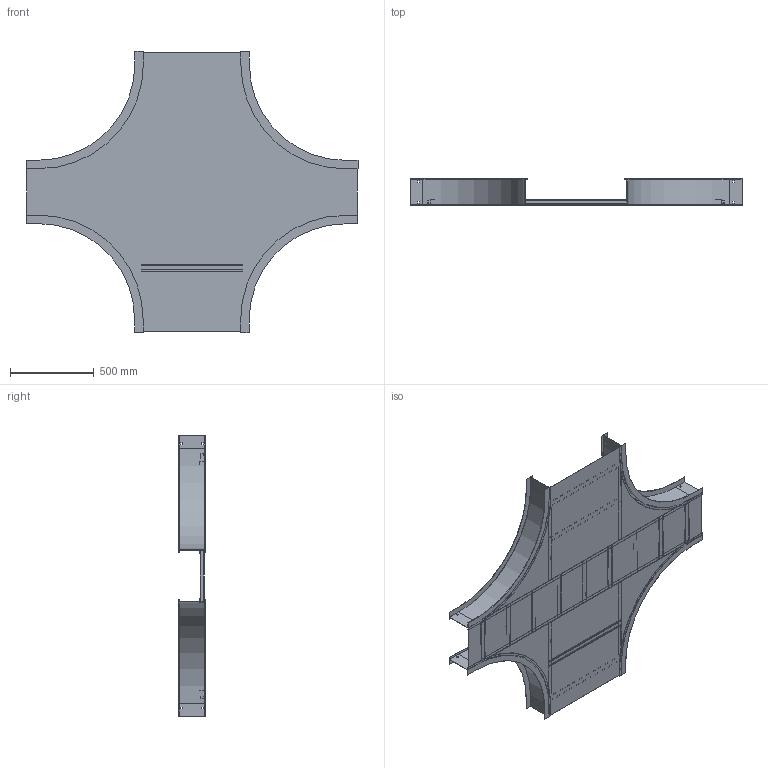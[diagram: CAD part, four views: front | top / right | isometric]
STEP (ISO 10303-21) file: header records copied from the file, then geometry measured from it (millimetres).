
FILE_DESCRIPTION((''),'2;1');
FILE_NAME('AHF61224SEX24_ASM','2010-02-01T',('erouzier'),(''),'PRO/ENGINEER BY PARAMETRIC TECHNOLOGY CORPORATION, 2008510','PRO/ENGINEER BY PARAMETRIC TECHNOLOGY CORPORATION, 2008510','');
FILE_SCHEMA(('CONFIG_CONTROL_DESIGN'));
Length unit declared in the file: inch
Products named in the file (19): CDS001812-6-90-24-I; CDS002159L12_AF17; CDS002159L12_AF18; CDS002159L12_AF19; CDS002159L12_AF20; CDS002159L12_AF21; CDS002159L12_AF22; CDS002159L12_AF23; CDS002159L12_AF25; CDS002159L12_AF24; CDS000495_GEN_AF18; CDS000495_GEN_AF19; CDS000495_GEN_AF22; CDS000495_GEN_AF23; CDS000495_GEN_AF20; CDS000495_GEN_AF21; CDS002159L24; CDS014308-12-24-24; AHF61224SEX24_ASM
Assembly tree (24 placements, depth 2):
  AHF61224SEX24_ASM
    CDS001812-6-90-24-I  x4
    CDS002159L12_AF17
    CDS002159L12_AF18
    CDS002159L12_AF19
    CDS002159L12_AF20
    CDS002159L12_AF21
    CDS002159L12_AF22
    CDS002159L12_AF23
    CDS002159L12_AF25
    CDS002159L12_AF24
    CDS000495_GEN_AF18
    CDS000495_GEN_AF19
    CDS000495_GEN_AF22
    CDS000495_GEN_AF23
    CDS000495_GEN_AF20
    CDS000495_GEN_AF21
    CDS002159L24  x4
    CDS014308-12-24-24
Bounding box: 1986.28 x 157.99 x 1681.48 mm (x, y, z)
Volume: 6279315.3 mm3; surface area: 7773462 mm2
Topology: 24 solids, 24 shells, 636 faces, 1764 edges, 1176 vertices
Faces by surface type: plane 465, cylinder 171
Entity records: 13794 total; most frequent: CARTESIAN_POINT 2383, DIRECTION 2318, ORIENTED_EDGE 2304, EDGE_CURVE 1152, VECTOR 912, LINE 912, VERTEX_POINT 768, AXIS2_PLACEMENT_3D 703
